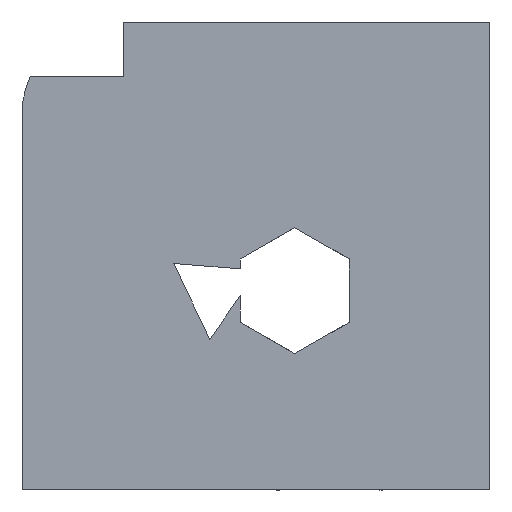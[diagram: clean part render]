
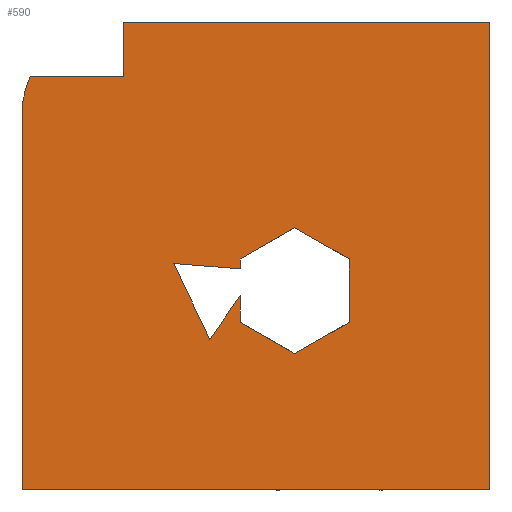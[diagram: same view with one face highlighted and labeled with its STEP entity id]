
A CAD part, front view. The second image highlights one B-rep face of the part: STEP entity #590.
In plain terms, the highlighted planar face has unit normal (0, -1, 0).
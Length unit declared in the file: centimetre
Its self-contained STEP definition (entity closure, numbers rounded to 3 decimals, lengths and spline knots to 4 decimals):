
#20 = DIRECTION ( 'NONE',  ( 0., 0., -1. ) ) ;
#24 = EDGE_CURVE ( 'NONE', #1716, #238, #685, .T. ) ;
#26 = CARTESIAN_POINT ( 'NONE',  ( 197.3095, 0., 802.6905 ) ) ;
#29 = DIRECTION ( 'NONE',  ( 0.867, 0., 0.498 ) ) ;
#51 = DIRECTION ( 'NONE',  ( 1., 0., 0. ) ) ;
#54 = VERTEX_POINT ( 'NONE', #1490 ) ;
#67 = EDGE_CURVE ( 'NONE', #54, #1729, #1146, .T. ) ;
#68 = FACE_BOUND ( 'NONE', #1205, .T. ) ;
#73 = ORIENTED_EDGE ( 'NONE', *, *, #765, .F. ) ;
#102 = CARTESIAN_POINT ( 'NONE',  ( 0., 0., 0. ) ) ;
#117 = CARTESIAN_POINT ( 'NONE',  ( 0., 0., 0. ) ) ;
#128 = EDGE_CURVE ( 'NONE', #947, #687, #1052, .T. ) ;
#136 = DIRECTION ( 'NONE',  ( 0., 0., -1. ) ) ;
#137 = ORIENTED_EDGE ( 'NONE', *, *, #1387, .T. ) ;
#147 = DIRECTION ( 'NONE',  ( 0., 0., -1. ) ) ;
#149 = LINE ( 'NONE', #361, #1133 ) ;
#162 = LINE ( 'NONE', #1215, #177 ) ;
#166 = ORIENTED_EDGE ( 'NONE', *, *, #1525, .F. ) ;
#175 = ORIENTED_EDGE ( 'NONE', *, *, #294, .T. ) ;
#177 = VECTOR ( 'NONE', #147, 100. ) ;
#203 = ORIENTED_EDGE ( 'NONE', *, *, #1325, .T. ) ;
#204 = ORIENTED_EDGE ( 'NONE', *, *, #24, .T. ) ;
#219 = CARTESIAN_POINT ( 'NONE',  ( 582.3565, 0., 291.3854 ) ) ;
#228 = AXIS2_PLACEMENT_3D ( 'NONE', #978, #309, #616 ) ;
#238 = VERTEX_POINT ( 'NONE', #117 ) ;
#251 = CARTESIAN_POINT ( 'NONE',  ( 582.3565, 0., 560.5239 ) ) ;
#258 = ORIENTED_EDGE ( 'NONE', *, *, #67, .T. ) ;
#259 = DIRECTION ( 'NONE',  ( 0.568, 0., 0.823 ) ) ;
#277 = CARTESIAN_POINT ( 'NONE',  ( 699.1995, 0., 358.1459 ) ) ;
#294 = EDGE_CURVE ( 'NONE', #502, #1716, #1037, .T. ) ;
#301 = CARTESIAN_POINT ( 'NONE',  ( 324.2896, 0., 483.9687 ) ) ;
#303 = CARTESIAN_POINT ( 'NONE',  ( 466.1187, 0., 493.7634 ) ) ;
#309 = DIRECTION ( 'NONE',  ( 0., 1., 0. ) ) ;
#316 = CARTESIAN_POINT ( 'NONE',  ( 0., 0., 1000. ) ) ;
#346 = DIRECTION ( 'NONE',  ( 1., 0., 0. ) ) ;
#348 = VERTEX_POINT ( 'NONE', #277 ) ;
#359 = LINE ( 'NONE', #741, #1402 ) ;
#361 = CARTESIAN_POINT ( 'NONE',  ( 324.2896, 0., 483.9687 ) ) ;
#389 = ORIENTED_EDGE ( 'NONE', *, *, #1645, .T. ) ;
#403 = CARTESIAN_POINT ( 'NONE',  ( 401.4136, 0., 321.6531 ) ) ;
#427 = VERTEX_POINT ( 'NONE', #1363 ) ;
#454 = DIRECTION ( 'NONE',  ( -0.868, 0., -0.496 ) ) ;
#467 = CARTESIAN_POINT ( 'NONE',  ( 699.1995, 0., 358.1459 ) ) ;
#479 = VERTEX_POINT ( 'NONE', #301 ) ;
#500 = LINE ( 'NONE', #538, #673 ) ;
#502 = VERTEX_POINT ( 'NONE', #706 ) ;
#515 = VERTEX_POINT ( 'NONE', #698 ) ;
#516 = VERTEX_POINT ( 'NONE', #1638 ) ;
#519 = CARTESIAN_POINT ( 'NONE',  ( 466.1187, 0., 358.1459 ) ) ;
#537 = VERTEX_POINT ( 'NONE', #581 ) ;
#538 = CARTESIAN_POINT ( 'NONE',  ( 699.1995, 0., 493.7634 ) ) ;
#542 = DIRECTION ( 'NONE',  ( 0., 0., 1. ) ) ;
#545 = CARTESIAN_POINT ( 'NONE',  ( 216.5678, 0., 883.9803 ) ) ;
#546 = CARTESIAN_POINT ( 'NONE',  ( 1000., 0., 1000. ) ) ;
#581 = CARTESIAN_POINT ( 'NONE',  ( 401.4136, 0., 321.6531 ) ) ;
#588 = FACE_OUTER_BOUND ( 'NONE', #797, .T. ) ;
#590 = ADVANCED_FACE ( 'NONE', ( #68, #588 ), #1646, .F. ) ;
#591 = ORIENTED_EDGE ( 'NONE', *, *, #860, .F. ) ;
#594 = ORIENTED_EDGE ( 'NONE', *, *, #665, .T. ) ;
#616 = DIRECTION ( 'NONE',  ( 0., 0., 1. ) ) ;
#617 = CARTESIAN_POINT ( 'NONE',  ( 466.1187, 0., 358.1459 ) ) ;
#639 = VECTOR ( 'NONE', #29, 100. ) ;
#665 = EDGE_CURVE ( 'NONE', #1423, #427, #359, .T. ) ;
#673 = VECTOR ( 'NONE', #136, 100. ) ;
#685 = LINE ( 'NONE', #945, #1660 ) ;
#687 = VERTEX_POINT ( 'NONE', #1673 ) ;
#690 = DIRECTION ( 'NONE',  ( -1., 0., 0. ) ) ;
#696 = ORIENTED_EDGE ( 'NONE', *, *, #128, .T. ) ;
#698 = CARTESIAN_POINT ( 'NONE',  ( 466.1187, 0., 415.4997 ) ) ;
#705 = LINE ( 'NONE', #316, #1192 ) ;
#706 = CARTESIAN_POINT ( 'NONE',  ( 17.5235, 0., 883.9803 ) ) ;
#741 = CARTESIAN_POINT ( 'NONE',  ( 582.3565, 0., 291.3854 ) ) ;
#745 = LINE ( 'NONE', #467, #1507 ) ;
#754 = ORIENTED_EDGE ( 'NONE', *, *, #1138, .T. ) ;
#765 = EDGE_CURVE ( 'NONE', #1276, #516, #162, .T. ) ;
#790 = EDGE_CURVE ( 'NONE', #1078, #1428, #1719, .T. ) ;
#797 = EDGE_LOOP ( 'NONE', ( #258, #389, #175, #204, #933, #73, #591 ) ) ;
#846 = VECTOR ( 'NONE', #346, 100. ) ;
#847 = LINE ( 'NONE', #1091, #1706 ) ;
#860 = EDGE_CURVE ( 'NONE', #54, #1276, #705, .T. ) ;
#900 = VECTOR ( 'NONE', #930, 100. ) ;
#901 = DIRECTION ( 'NONE',  ( 0.429, 0., -0.903 ) ) ;
#930 = DIRECTION ( 'NONE',  ( -0.997, 0., 0.08 ) ) ;
#933 = ORIENTED_EDGE ( 'NONE', *, *, #1389, .T. ) ;
#938 = ORIENTED_EDGE ( 'NONE', *, *, #1210, .F. ) ;
#945 = CARTESIAN_POINT ( 'NONE',  ( 0., 0., 1000. ) ) ;
#946 = LINE ( 'NONE', #1491, #900 ) ;
#947 = VERTEX_POINT ( 'NONE', #1110 ) ;
#951 = VECTOR ( 'NONE', #1013, 100. ) ;
#962 = VECTOR ( 'NONE', #20, 100. ) ;
#963 = DIRECTION ( 'NONE',  ( 0., 0., -1. ) ) ;
#978 = CARTESIAN_POINT ( 'NONE',  ( 0., 0., 1000. ) ) ;
#1013 = DIRECTION ( 'NONE',  ( 0., 0., 1. ) ) ;
#1016 = CARTESIAN_POINT ( 'NONE',  ( 699.1995, 0., 493.7634 ) ) ;
#1028 = CARTESIAN_POINT ( 'NONE',  ( 582.3565, 0., 560.5239 ) ) ;
#1037 = CIRCLE ( 'NONE', #1462, 197.3095 ) ;
#1052 = LINE ( 'NONE', #617, #951 ) ;
#1078 = VERTEX_POINT ( 'NONE', #1028 ) ;
#1091 = CARTESIAN_POINT ( 'NONE',  ( 0., 0., 883.9803 ) ) ;
#1110 = CARTESIAN_POINT ( 'NONE',  ( 466.1187, 0., 472.5939 ) ) ;
#1133 = VECTOR ( 'NONE', #901, 100. ) ;
#1137 = LINE ( 'NONE', #102, #846 ) ;
#1138 = EDGE_CURVE ( 'NONE', #1428, #348, #500, .T. ) ;
#1146 = LINE ( 'NONE', #545, #962 ) ;
#1162 = VECTOR ( 'NONE', #1486, 100. ) ;
#1182 = EDGE_CURVE ( 'NONE', #427, #515, #1212, .T. ) ;
#1192 = VECTOR ( 'NONE', #51, 100. ) ;
#1196 = DIRECTION ( 'NONE',  ( 0., 0., 1. ) ) ;
#1197 = ORIENTED_EDGE ( 'NONE', *, *, #1202, .F. ) ;
#1202 = EDGE_CURVE ( 'NONE', #537, #515, #1619, .T. ) ;
#1205 = EDGE_LOOP ( 'NONE', ( #938, #696, #203, #1545, #754, #137, #594, #1557, #1197, #166 ) ) ;
#1210 = EDGE_CURVE ( 'NONE', #947, #479, #946, .T. ) ;
#1212 = LINE ( 'NONE', #519, #1221 ) ;
#1215 = CARTESIAN_POINT ( 'NONE',  ( 1000., 0., 1000. ) ) ;
#1221 = VECTOR ( 'NONE', #1196, 100. ) ;
#1227 = CARTESIAN_POINT ( 'NONE',  ( 216.5678, 0., 883.9803 ) ) ;
#1259 = CARTESIAN_POINT ( 'NONE',  ( 0., 0., 802.6905 ) ) ;
#1276 = VERTEX_POINT ( 'NONE', #546 ) ;
#1302 = DIRECTION ( 'NONE',  ( -0.867, 0., 0.498 ) ) ;
#1325 = EDGE_CURVE ( 'NONE', #687, #1078, #1640, .T. ) ;
#1363 = CARTESIAN_POINT ( 'NONE',  ( 466.1187, 0., 358.1459 ) ) ;
#1387 = EDGE_CURVE ( 'NONE', #348, #1423, #745, .T. ) ;
#1389 = EDGE_CURVE ( 'NONE', #238, #516, #1137, .T. ) ;
#1402 = VECTOR ( 'NONE', #1302, 100. ) ;
#1423 = VERTEX_POINT ( 'NONE', #219 ) ;
#1428 = VERTEX_POINT ( 'NONE', #1016 ) ;
#1439 = VECTOR ( 'NONE', #259, 100. ) ;
#1462 = AXIS2_PLACEMENT_3D ( 'NONE', #26, #1631, #542 ) ;
#1486 = DIRECTION ( 'NONE',  ( 0.868, 0., -0.496 ) ) ;
#1490 = CARTESIAN_POINT ( 'NONE',  ( 216.5678, 0., 1000. ) ) ;
#1491 = CARTESIAN_POINT ( 'NONE',  ( 503.4211, 0., 469.6023 ) ) ;
#1507 = VECTOR ( 'NONE', #454, 100. ) ;
#1525 = EDGE_CURVE ( 'NONE', #479, #537, #149, .T. ) ;
#1545 = ORIENTED_EDGE ( 'NONE', *, *, #790, .T. ) ;
#1557 = ORIENTED_EDGE ( 'NONE', *, *, #1182, .T. ) ;
#1619 = LINE ( 'NONE', #403, #1439 ) ;
#1631 = DIRECTION ( 'NONE',  ( 0., -1., 0. ) ) ;
#1638 = CARTESIAN_POINT ( 'NONE',  ( 1000., 0., 0. ) ) ;
#1640 = LINE ( 'NONE', #303, #639 ) ;
#1645 = EDGE_CURVE ( 'NONE', #1729, #502, #847, .T. ) ;
#1646 = PLANE ( 'NONE',  #228 ) ;
#1660 = VECTOR ( 'NONE', #963, 100. ) ;
#1673 = CARTESIAN_POINT ( 'NONE',  ( 466.1187, 0., 493.7634 ) ) ;
#1706 = VECTOR ( 'NONE', #690, 100. ) ;
#1716 = VERTEX_POINT ( 'NONE', #1259 ) ;
#1719 = LINE ( 'NONE', #251, #1162 ) ;
#1729 = VERTEX_POINT ( 'NONE', #1227 ) ;
